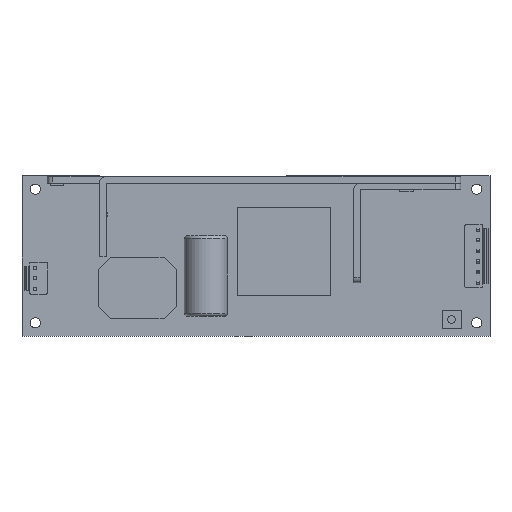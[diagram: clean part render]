
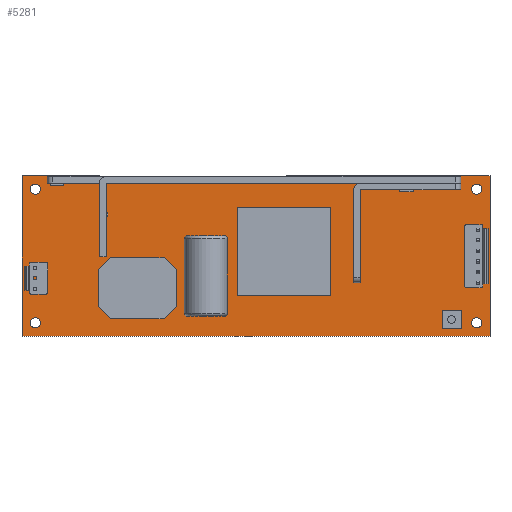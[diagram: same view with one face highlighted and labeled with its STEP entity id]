
A CAD part, top view. The second image highlights one B-rep face of the part: STEP entity #5281.
In plain terms, the highlighted planar face has unit normal (0, 0, 1).
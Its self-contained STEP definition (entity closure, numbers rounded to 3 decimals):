
#4882=CARTESIAN_POINT('',(-189.575,15.176,0.0));
#4883=VERTEX_POINT('',#4882);
#4884=CARTESIAN_POINT('',(-187.675,15.176,0.0));
#4885=DIRECTION('',(0.0,0.0,-1.0));
#4886=DIRECTION('',(1.0,0.0,0.0));
#4887=AXIS2_PLACEMENT_3D('',#4884,#4885,#4886);
#4888=CIRCLE('',#4887,1.9);
#4889=EDGE_CURVE('',#4883,#4883,#4888,.T.);
#4910=CARTESIAN_POINT('',(-24.575,15.176,0.0));
#4911=VERTEX_POINT('',#4910);
#4912=CARTESIAN_POINT('',(-22.675,15.176,0.0));
#4913=DIRECTION('',(0.0,0.0,-1.0));
#4914=DIRECTION('',(1.0,0.0,0.0));
#4915=AXIS2_PLACEMENT_3D('',#4912,#4913,#4914);
#4916=CIRCLE('',#4915,1.9);
#4917=EDGE_CURVE('',#4911,#4911,#4916,.T.);
#4938=CARTESIAN_POINT('',(-24.575,65.176,0.0));
#4939=VERTEX_POINT('',#4938);
#4940=CARTESIAN_POINT('',(-22.675,65.176,0.0));
#4941=DIRECTION('',(0.0,0.0,-1.0));
#4942=DIRECTION('',(1.0,0.0,0.0));
#4943=AXIS2_PLACEMENT_3D('',#4940,#4941,#4942);
#4944=CIRCLE('',#4943,1.9);
#4945=EDGE_CURVE('',#4939,#4939,#4944,.T.);
#4966=CARTESIAN_POINT('',(-189.575,65.176,0.0));
#4967=VERTEX_POINT('',#4966);
#4968=CARTESIAN_POINT('',(-187.675,65.176,0.0));
#4969=DIRECTION('',(0.0,0.0,-1.0));
#4970=DIRECTION('',(1.0,0.0,0.0));
#4971=AXIS2_PLACEMENT_3D('',#4968,#4969,#4970);
#4972=CIRCLE('',#4971,1.9);
#4973=EDGE_CURVE('',#4967,#4967,#4972,.T.);
#4983=CARTESIAN_POINT('',(-93.635,70.176,0.0));
#4984=VERTEX_POINT('',#4983);
#4985=CARTESIAN_POINT('',(-17.675,70.176,0.0));
#4986=VERTEX_POINT('',#4985);
#4987=CARTESIAN_POINT('',(-93.635,70.176,0.0));
#4988=DIRECTION('',(1.0,0.0,0.0));
#4989=VECTOR('',#4988,75.96);
#4990=LINE('',#4987,#4989);
#4991=EDGE_CURVE('',#4984,#4986,#4990,.T.);
#5023=CARTESIAN_POINT('',(-17.675,10.176,0.0));
#5024=VERTEX_POINT('',#5023);
#5025=CARTESIAN_POINT('',(-17.675,70.176,0.0));
#5026=DIRECTION('',(0.0,-1.0,0.0));
#5027=VECTOR('',#5026,60.);
#5028=LINE('',#5025,#5027);
#5029=EDGE_CURVE('',#4986,#5024,#5028,.T.);
#5054=CARTESIAN_POINT('',(-192.675,10.176,0.0));
#5055=VERTEX_POINT('',#5054);
#5056=CARTESIAN_POINT('',(-17.675,10.176,0.0));
#5057=DIRECTION('',(-1.0,0.0,0.0));
#5058=VECTOR('',#5057,175.);
#5059=LINE('',#5056,#5058);
#5060=EDGE_CURVE('',#5024,#5055,#5059,.T.);
#5085=CARTESIAN_POINT('',(-192.675,70.176,0.0));
#5086=VERTEX_POINT('',#5085);
#5087=CARTESIAN_POINT('',(-192.675,10.176,0.0));
#5088=DIRECTION('',(0.0,1.0,0.0));
#5089=VECTOR('',#5088,60.);
#5090=LINE('',#5087,#5089);
#5091=EDGE_CURVE('',#5055,#5086,#5090,.T.);
#5118=CARTESIAN_POINT('',(-163.675,70.176,0.0));
#5119=VERTEX_POINT('',#5118);
#5133=CARTESIAN_POINT('',(-192.675,70.176,0.0));
#5134=DIRECTION('',(1.0,0.0,0.0));
#5135=VECTOR('',#5134,29.);
#5136=LINE('',#5133,#5135);
#5137=EDGE_CURVE('',#5086,#5119,#5136,.T.);
#5148=CARTESIAN_POINT('',(-163.675,69.426,0.0));
#5149=VERTEX_POINT('',#5148);
#5150=CARTESIAN_POINT('',(-163.675,70.176,0.0));
#5151=DIRECTION('',(0.0,-1.0,0.0));
#5152=VECTOR('',#5151,0.75);
#5153=LINE('',#5150,#5152);
#5154=EDGE_CURVE('',#5119,#5149,#5153,.T.);
#5178=CARTESIAN_POINT('',(-93.635,69.426,0.0));
#5179=VERTEX_POINT('',#5178);
#5180=CARTESIAN_POINT('',(-163.675,69.426,0.0));
#5181=DIRECTION('',(1.0,0.0,0.0));
#5182=VECTOR('',#5181,70.04);
#5183=LINE('',#5180,#5182);
#5184=EDGE_CURVE('',#5149,#5179,#5183,.T.);
#5216=CARTESIAN_POINT('',(-93.635,69.426,0.0));
#5217=DIRECTION('',(0.0,1.0,0.0));
#5218=VECTOR('',#5217,0.75);
#5219=LINE('',#5216,#5218);
#5220=EDGE_CURVE('',#5179,#4984,#5219,.T.);
#5254=CARTESIAN_POINT('',(0.0,0.0,0.0));
#5255=DIRECTION('',(0.0,0.0,1.0));
#5256=DIRECTION('',(1.0,0.0,0.0));
#5257=AXIS2_PLACEMENT_3D('',#5254,#5255,#5256);
#5258=PLANE('',#5257);
#5259=ORIENTED_EDGE('',*,*,#4991,.F.);
#5260=ORIENTED_EDGE('',*,*,#5220,.F.);
#5261=ORIENTED_EDGE('',*,*,#5184,.F.);
#5262=ORIENTED_EDGE('',*,*,#5154,.F.);
#5263=ORIENTED_EDGE('',*,*,#5137,.F.);
#5264=ORIENTED_EDGE('',*,*,#5091,.F.);
#5265=ORIENTED_EDGE('',*,*,#5060,.F.);
#5266=ORIENTED_EDGE('',*,*,#5029,.F.);
#5267=EDGE_LOOP('',(#5259,#5260,#5261,#5262,#5263,#5264,#5265,#5266));
#5268=FACE_OUTER_BOUND('',#5267,.T.);
#5269=ORIENTED_EDGE('',*,*,#4889,.T.);
#5270=EDGE_LOOP('',(#5269));
#5271=FACE_BOUND('',#5270,.T.);
#5272=ORIENTED_EDGE('',*,*,#4917,.T.);
#5273=EDGE_LOOP('',(#5272));
#5274=FACE_BOUND('',#5273,.T.);
#5275=ORIENTED_EDGE('',*,*,#4945,.T.);
#5276=EDGE_LOOP('',(#5275));
#5277=FACE_BOUND('',#5276,.T.);
#5278=ORIENTED_EDGE('',*,*,#4973,.T.);
#5279=EDGE_LOOP('',(#5278));
#5280=FACE_BOUND('',#5279,.T.);
#5281=ADVANCED_FACE('',(#5268,#5271,#5274,#5277,#5280),#5258,.T.);
